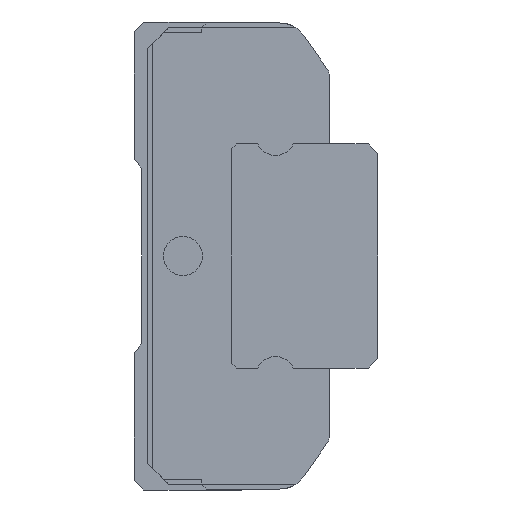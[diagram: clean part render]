
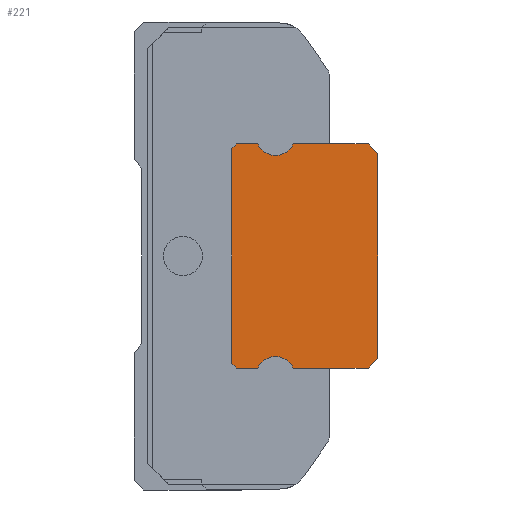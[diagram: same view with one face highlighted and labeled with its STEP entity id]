
A CAD part, left-side view. The second image highlights one B-rep face of the part: STEP entity #221.
In plain terms, the highlighted planar face has unit normal (-1, 0, 0).
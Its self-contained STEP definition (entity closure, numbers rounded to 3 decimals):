
#221 = ADVANCED_FACE( '', ( #608 ), #609, .F. );
#608 = FACE_OUTER_BOUND( '', #1139, .T. );
#609 = PLANE( '', #1140 );
#1139 = EDGE_LOOP( '', ( #2185, #2186, #2187, #2188, #2189, #2190, #2191, #2192, #2193, #2194, #2195, #2196 ) );
#1140 = AXIS2_PLACEMENT_3D( '', #2197, #2198, #2199 );
#2185 = ORIENTED_EDGE( '', *, *, #3569, .F. );
#2186 = ORIENTED_EDGE( '', *, *, #3536, .F. );
#2187 = ORIENTED_EDGE( '', *, *, #3540, .F. );
#2188 = ORIENTED_EDGE( '', *, *, #3543, .F. );
#2189 = ORIENTED_EDGE( '', *, *, #3546, .F. );
#2190 = ORIENTED_EDGE( '', *, *, #3549, .F. );
#2191 = ORIENTED_EDGE( '', *, *, #3552, .F. );
#2192 = ORIENTED_EDGE( '', *, *, #3555, .F. );
#2193 = ORIENTED_EDGE( '', *, *, #3558, .F. );
#2194 = ORIENTED_EDGE( '', *, *, #3561, .F. );
#2195 = ORIENTED_EDGE( '', *, *, #3564, .F. );
#2196 = ORIENTED_EDGE( '', *, *, #3567, .F. );
#2197 = CARTESIAN_POINT( '', ( -20., 0., 0. ) );
#2198 = DIRECTION( '', ( 1., 0., 0. ) );
#2199 = DIRECTION( '', ( 0., 0., -1. ) );
#3536 = EDGE_CURVE( '', #4271, #4273, #4274, .T. );
#3540 = EDGE_CURVE( '', #4278, #4271, #4280, .T. );
#3543 = EDGE_CURVE( '', #4283, #4278, #4285, .T. );
#3546 = EDGE_CURVE( '', #4288, #4283, #4290, .T. );
#3549 = EDGE_CURVE( '', #4293, #4288, #4295, .T. );
#3552 = EDGE_CURVE( '', #4298, #4293, #4300, .T. );
#3555 = EDGE_CURVE( '', #4303, #4298, #4305, .T. );
#3558 = EDGE_CURVE( '', #4308, #4303, #4310, .T. );
#3561 = EDGE_CURVE( '', #4313, #4308, #4315, .T. );
#3564 = EDGE_CURVE( '', #4318, #4313, #4320, .T. );
#3567 = EDGE_CURVE( '', #4323, #4318, #4325, .T. );
#3569 = EDGE_CURVE( '', #4273, #4323, #4327, .T. );
#4271 = VERTEX_POINT( '', #5326 );
#4273 = VERTEX_POINT( '', #5329 );
#4274 = LINE( '', #5330, #5331 );
#4278 = VERTEX_POINT( '', #5336 );
#4280 = CIRCLE( '', #5339, 2.02 );
#4283 = VERTEX_POINT( '', #5343 );
#4285 = LINE( '', #5346, #5347 );
#4288 = VERTEX_POINT( '', #5351 );
#4290 = LINE( '', #5354, #5355 );
#4293 = VERTEX_POINT( '', #5359 );
#4295 = LINE( '', #5362, #5363 );
#4298 = VERTEX_POINT( '', #5367 );
#4300 = LINE( '', #5370, #5371 );
#4303 = VERTEX_POINT( '', #5375 );
#4305 = LINE( '', #5378, #5379 );
#4308 = VERTEX_POINT( '', #5382 );
#4310 = CIRCLE( '', #5385, 2.02 );
#4313 = VERTEX_POINT( '', #5389 );
#4315 = LINE( '', #5392, #5393 );
#4318 = VERTEX_POINT( '', #5397 );
#4320 = LINE( '', #5400, #5401 );
#4323 = VERTEX_POINT( '', #5405 );
#4325 = LINE( '', #5408, #5409 );
#4327 = LINE( '', #5412, #5413 );
#5326 = CARTESIAN_POINT( '', ( -20., 8.663, 11.5 ) );
#5329 = CARTESIAN_POINT( '', ( -20., 1., 11.5 ) );
#5330 = CARTESIAN_POINT( '', ( -20., 8.663, 11.5 ) );
#5331 = VECTOR( '', #6764, 1. );
#5336 = CARTESIAN_POINT( '', ( -20., 12.337, 11.5 ) );
#5339 = AXIS2_PLACEMENT_3D( '', #6770, #6771, #6772 );
#5343 = CARTESIAN_POINT( '', ( -20., 14.5, 11.5 ) );
#5346 = CARTESIAN_POINT( '', ( -20., 14.5, 11.5 ) );
#5347 = VECTOR( '', #6775, 1. );
#5351 = CARTESIAN_POINT( '', ( -20., 15., 11. ) );
#5354 = CARTESIAN_POINT( '', ( -20., 15., 11. ) );
#5355 = VECTOR( '', #6778, 1. );
#5359 = CARTESIAN_POINT( '', ( -20., 15., -11. ) );
#5362 = CARTESIAN_POINT( '', ( -20., 15., -11. ) );
#5363 = VECTOR( '', #6781, 1. );
#5367 = CARTESIAN_POINT( '', ( -20., 14.5, -11.5 ) );
#5370 = CARTESIAN_POINT( '', ( -20., 14.5, -11.5 ) );
#5371 = VECTOR( '', #6784, 1. );
#5375 = CARTESIAN_POINT( '', ( -20., 12.337, -11.5 ) );
#5378 = CARTESIAN_POINT( '', ( -20., 12.337, -11.5 ) );
#5379 = VECTOR( '', #6787, 1. );
#5382 = CARTESIAN_POINT( '', ( -20., 8.663, -11.5 ) );
#5385 = AXIS2_PLACEMENT_3D( '', #6792, #6793, #6794 );
#5389 = CARTESIAN_POINT( '', ( -20., 1., -11.5 ) );
#5392 = CARTESIAN_POINT( '', ( -20., 1., -11.5 ) );
#5393 = VECTOR( '', #6797, 1. );
#5397 = CARTESIAN_POINT( '', ( -20., 0., -10.5 ) );
#5400 = CARTESIAN_POINT( '', ( -20., 0., -10.5 ) );
#5401 = VECTOR( '', #6800, 1. );
#5405 = CARTESIAN_POINT( '', ( -20., 0., 10.5 ) );
#5408 = CARTESIAN_POINT( '', ( -20., 0., 10.5 ) );
#5409 = VECTOR( '', #6803, 1. );
#5412 = CARTESIAN_POINT( '', ( -20., 1., 11.5 ) );
#5413 = VECTOR( '', #6805, 1. );
#6764 = DIRECTION( '', ( 0., -1., 0. ) );
#6770 = CARTESIAN_POINT( '', ( -20., 10.5, 12.34 ) );
#6771 = DIRECTION( '', ( -1., 0., 0. ) );
#6772 = DIRECTION( '', ( 0., 0.909, -0.416 ) );
#6775 = DIRECTION( '', ( 0., -1., 0. ) );
#6778 = DIRECTION( '', ( 0., -0.707, 0.707 ) );
#6781 = DIRECTION( '', ( 0., 0., 1. ) );
#6784 = DIRECTION( '', ( 0., 0.707, 0.707 ) );
#6787 = DIRECTION( '', ( 0., 1., 0. ) );
#6792 = CARTESIAN_POINT( '', ( -20., 10.5, -12.34 ) );
#6793 = DIRECTION( '', ( -1., 0., 0. ) );
#6794 = DIRECTION( '', ( 0., -0.909, 0.416 ) );
#6797 = DIRECTION( '', ( 0., 1., 0. ) );
#6800 = DIRECTION( '', ( 0., 0.707, -0.707 ) );
#6803 = DIRECTION( '', ( 0., 0., -1. ) );
#6805 = DIRECTION( '', ( 0., -0.707, -0.707 ) );
